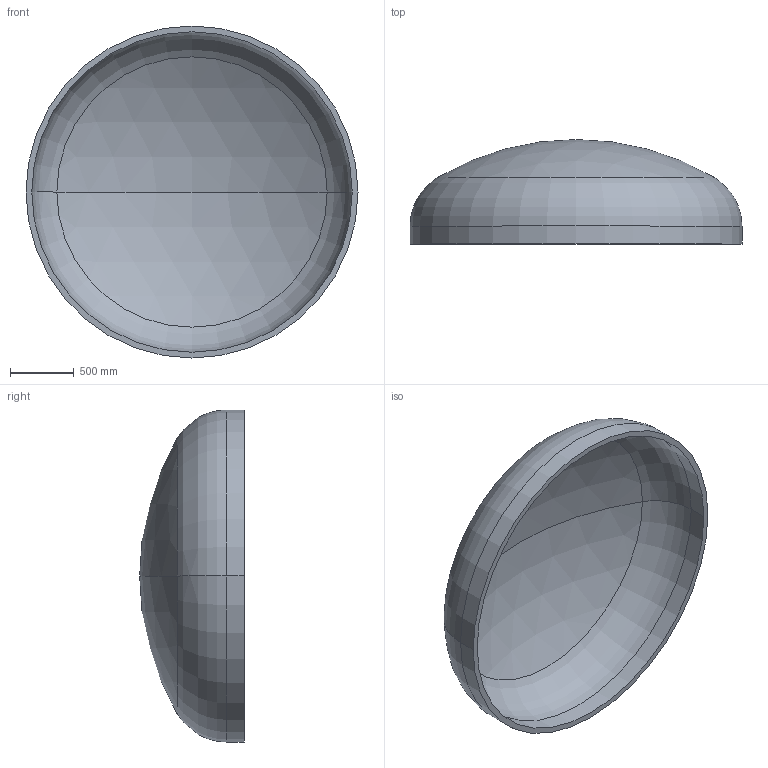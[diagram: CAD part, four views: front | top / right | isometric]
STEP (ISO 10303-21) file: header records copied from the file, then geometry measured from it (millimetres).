
FILE_DESCRIPTION (( 'STEP AP203' ), '1' );
FILE_NAME ('DIN 28013 Korbbogenform_-_Boden DIN 28013 - 2600 x 140 - I - s=45.step', '2016-07-01T16:13:15', ( '' ), ( '' ), 'SwSTEP 2.0', 'SolidWorks 2013', '' );
FILE_SCHEMA (( 'CONFIG_CONTROL_DESIGN' ));
Length unit declared in the file: millimetre
Products named in the file (1): DIN 28013 Korbbogenform_-_Boden DIN 28013 - 2600 x 140 - I - s=45
Bounding box: 2600 x 818.84 x 2600 mm (x, y, z)
Volume: 373935194.4 mm3; surface area: 16984782.2 mm2
Topology: 1 solids, 1 shells, 13 faces, 24 edges, 14 vertices
Faces by surface type: torus 4, cylinder 4, sphere 4, plane 1
Entity records: 407 total; most frequent: DIRECTION 72, CARTESIAN_POINT 52, ORIENTED_EDGE 48, AXIS2_PLACEMENT_3D 34, EDGE_CURVE 24, CIRCLE 20, VERTEX_POINT 14, EDGE_LOOP 14
